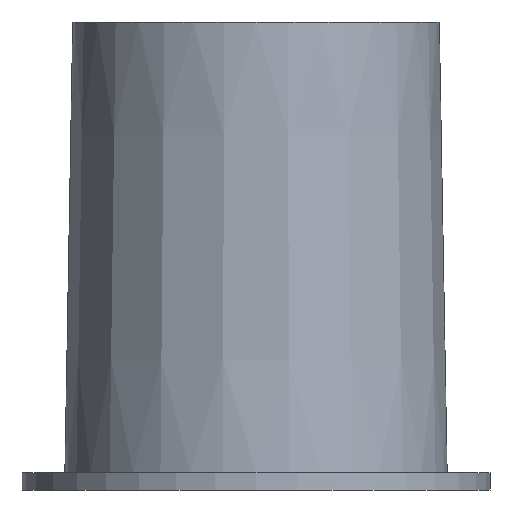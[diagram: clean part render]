
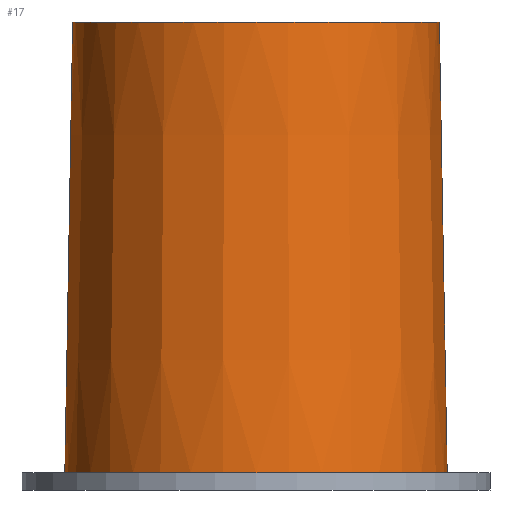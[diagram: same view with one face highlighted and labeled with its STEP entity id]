
A CAD part, front view. The second image highlights one B-rep face of the part: STEP entity #17.
In plain terms, the highlighted conical face has half-angle 1 degrees and reference radius 45 mm.
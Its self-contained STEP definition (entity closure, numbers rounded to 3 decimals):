
#17 = ADVANCED_FACE('',(#18),#32,.T.);
#18 = FACE_BOUND('',#19,.T.);
#19 = EDGE_LOOP('',(#20,#50,#77,#78));
#20 = ORIENTED_EDGE('',*,*,#21,.T.);
#21 = EDGE_CURVE('',#22,#24,#26,.T.);
#22 = VERTEX_POINT('',#23);
#23 = CARTESIAN_POINT('',(44.93,0.,4.));
#24 = VERTEX_POINT('',#25);
#25 = CARTESIAN_POINT('',(43.08,0.,110.));
#26 = SEAM_CURVE('',#27,(#31,#43),.PCURVE_S1.);
#27 = LINE('',#28,#29);
#28 = CARTESIAN_POINT('',(45.,0.,0.));
#29 = VECTOR('',#30,1.);
#30 = DIRECTION('',(-0.017,0.,
    1.));
#31 = PCURVE('',#32,#37);
#32 = CONICAL_SURFACE('',#33,45.,0.017);
#33 = AXIS2_PLACEMENT_3D('',#34,#35,#36);
#34 = CARTESIAN_POINT('',(0.,0.,0.));
#35 = DIRECTION('',(-0.,-0.,-1.));
#36 = DIRECTION('',(1.,0.,-0.));
#37 = DEFINITIONAL_REPRESENTATION('',(#38),#42);
#38 = LINE('',#39,#40);
#39 = CARTESIAN_POINT('',(-6.283,0.));
#40 = VECTOR('',#41,1.);
#41 = DIRECTION('',(-0.,-1.));
#42 = ( GEOMETRIC_REPRESENTATION_CONTEXT(2) 
PARAMETRIC_REPRESENTATION_CONTEXT() REPRESENTATION_CONTEXT('2D SPACE',''
  ) );
#43 = PCURVE('',#32,#44);
#44 = DEFINITIONAL_REPRESENTATION('',(#45),#49);
#45 = LINE('',#46,#47);
#46 = CARTESIAN_POINT('',(0.,-0.));
#47 = VECTOR('',#48,1.);
#48 = DIRECTION('',(-0.,-1.));
#49 = ( GEOMETRIC_REPRESENTATION_CONTEXT(2) 
PARAMETRIC_REPRESENTATION_CONTEXT() REPRESENTATION_CONTEXT('2D SPACE',''
  ) );
#50 = ORIENTED_EDGE('',*,*,#51,.F.);
#51 = EDGE_CURVE('',#24,#24,#52,.T.);
#52 = SURFACE_CURVE('',#53,(#58,#65),.PCURVE_S1.);
#53 = CIRCLE('',#54,43.08);
#54 = AXIS2_PLACEMENT_3D('',#55,#56,#57);
#55 = CARTESIAN_POINT('',(0.,0.,110.));
#56 = DIRECTION('',(0.,0.,1.));
#57 = DIRECTION('',(1.,0.,-0.));
#58 = PCURVE('',#32,#59);
#59 = DEFINITIONAL_REPRESENTATION('',(#60),#64);
#60 = LINE('',#61,#62);
#61 = CARTESIAN_POINT('',(-0.,-110.));
#62 = VECTOR('',#63,1.);
#63 = DIRECTION('',(-1.,-0.));
#64 = ( GEOMETRIC_REPRESENTATION_CONTEXT(2) 
PARAMETRIC_REPRESENTATION_CONTEXT() REPRESENTATION_CONTEXT('2D SPACE',''
  ) );
#65 = PCURVE('',#66,#71);
#66 = PLANE('',#67);
#67 = AXIS2_PLACEMENT_3D('',#68,#69,#70);
#68 = CARTESIAN_POINT('',(0.,0.,110.));
#69 = DIRECTION('',(0.,0.,1.));
#70 = DIRECTION('',(1.,0.,-0.));
#71 = DEFINITIONAL_REPRESENTATION('',(#72),#76);
#72 = CIRCLE('',#73,43.08);
#73 = AXIS2_PLACEMENT_2D('',#74,#75);
#74 = CARTESIAN_POINT('',(0.,0.));
#75 = DIRECTION('',(1.,0.));
#76 = ( GEOMETRIC_REPRESENTATION_CONTEXT(2) 
PARAMETRIC_REPRESENTATION_CONTEXT() REPRESENTATION_CONTEXT('2D SPACE',''
  ) );
#77 = ORIENTED_EDGE('',*,*,#21,.F.);
#78 = ORIENTED_EDGE('',*,*,#79,.T.);
#79 = EDGE_CURVE('',#22,#22,#80,.T.);
#80 = SURFACE_CURVE('',#81,(#86,#93),.PCURVE_S1.);
#81 = CIRCLE('',#82,44.93);
#82 = AXIS2_PLACEMENT_3D('',#83,#84,#85);
#83 = CARTESIAN_POINT('',(0.,0.,4.));
#84 = DIRECTION('',(0.,0.,1.));
#85 = DIRECTION('',(1.,0.,-0.));
#86 = PCURVE('',#32,#87);
#87 = DEFINITIONAL_REPRESENTATION('',(#88),#92);
#88 = LINE('',#89,#90);
#89 = CARTESIAN_POINT('',(-0.,-4.));
#90 = VECTOR('',#91,1.);
#91 = DIRECTION('',(-1.,-0.));
#92 = ( GEOMETRIC_REPRESENTATION_CONTEXT(2) 
PARAMETRIC_REPRESENTATION_CONTEXT() REPRESENTATION_CONTEXT('2D SPACE',''
  ) );
#93 = PCURVE('',#94,#99);
#94 = PLANE('',#95);
#95 = AXIS2_PLACEMENT_3D('',#96,#97,#98);
#96 = CARTESIAN_POINT('',(0.,0.,4.));
#97 = DIRECTION('',(0.,0.,1.));
#98 = DIRECTION('',(1.,0.,-0.));
#99 = DEFINITIONAL_REPRESENTATION('',(#100),#104);
#100 = CIRCLE('',#101,44.93);
#101 = AXIS2_PLACEMENT_2D('',#102,#103);
#102 = CARTESIAN_POINT('',(0.,0.));
#103 = DIRECTION('',(1.,0.));
#104 = ( GEOMETRIC_REPRESENTATION_CONTEXT(2) 
PARAMETRIC_REPRESENTATION_CONTEXT() REPRESENTATION_CONTEXT('2D SPACE',''
  ) );
